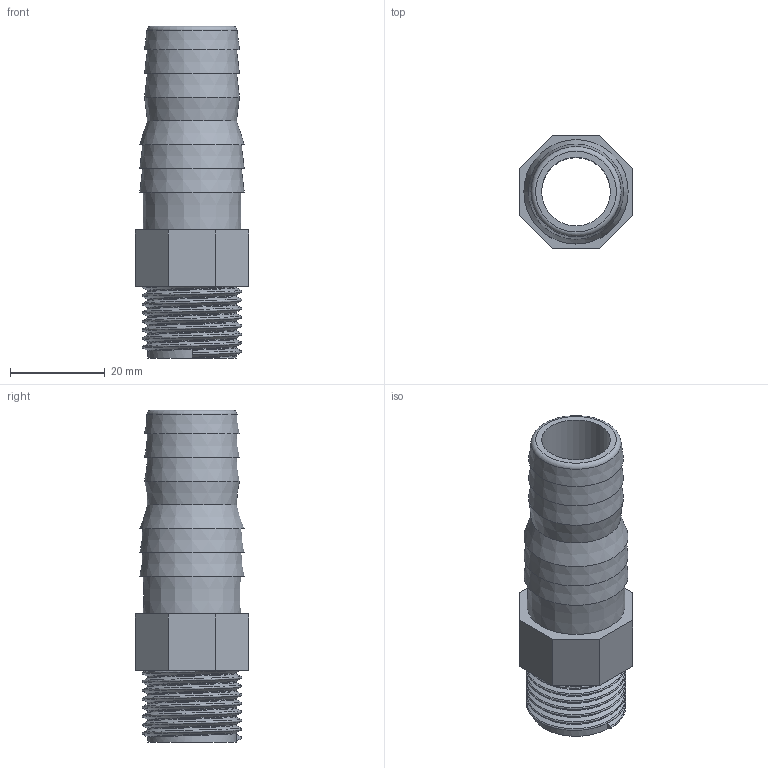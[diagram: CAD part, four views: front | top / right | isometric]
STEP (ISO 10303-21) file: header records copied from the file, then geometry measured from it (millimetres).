
FILE_DESCRIPTION(/* description */ ('PVC portagomma filettato BSP maschio'),/* implementation_level */ '2;1');
FILE_NAME(/* name */ 'C:\Users\POLYPIPE\Desktop\DATASET INVENTOR\LIBRERIA EFFAST\RACCORDI 3DxWEB\RER\3D_RERPGE\3D_RERPGE020B.stp',/* time_stamp */ '2018-01-19T16:50:44+01:00',/* author */ ('POLYPIPE'),/* organization */ ('Polypipe Italia s.r.l.'),/* preprocessor_version */ 'ST-DEVELOPER v16.1',/* originating_system */ 'Autodesk Inventor 2016',/* authorisation */ '');
FILE_SCHEMA (('CONFIG_CONTROL_DESIGN'));
Length unit declared in the file: millimetre
Products named in the file (1): 3D_RERPGE020B
Bounding box: 24 x 24 x 70 mm (x, y, z)
Volume: 12565.1 mm3; surface area: 9169.8 mm2
Topology: 1 solids, 1 shells, 34 faces, 73 edges, 45 vertices
Faces by surface type: plane 15, cone 11, bspline 5, cylinder 2, torus 1
Full cylindrical faces by diameter (mm): 14.5 x1, 18.631 x1
Entity records: 4038 total; most frequent: CARTESIAN_POINT 3349, DIRECTION 129, ORIENTED_EDGE 118, EDGE_CURVE 59, EDGE_LOOP 53, AXIS2_PLACEMENT_3D 51, VERTEX_POINT 44, FACE_OUTER_BOUND 34
